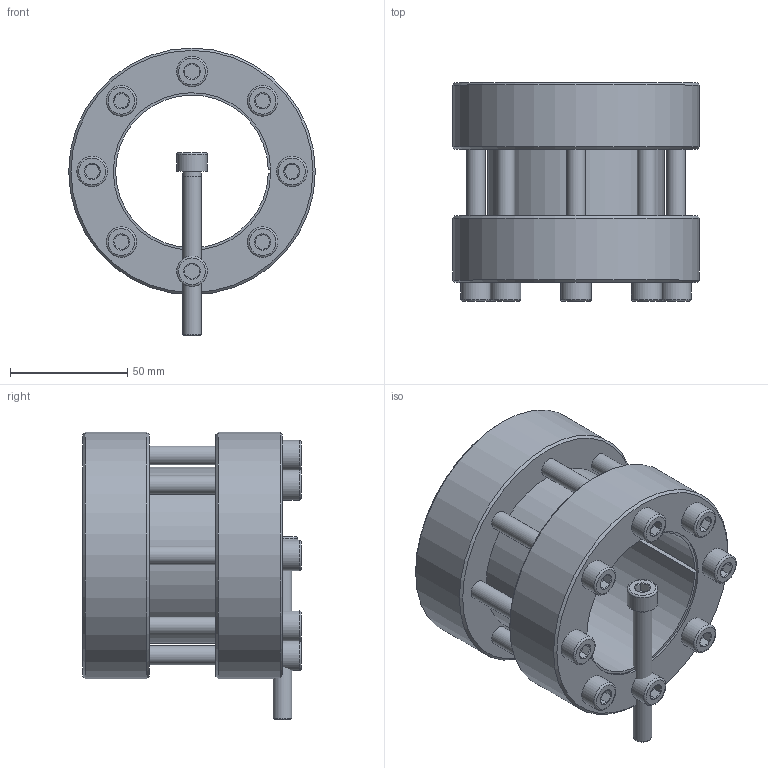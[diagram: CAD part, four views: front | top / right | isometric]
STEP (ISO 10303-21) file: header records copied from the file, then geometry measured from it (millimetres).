
FILE_DESCRIPTION( ( 'Unknown' ), '1' );
FILE_NAME( 'C:/Dokumente und Einstellungen/Sven/Desktop/homepage/cad - homepage/KBS95/KBS 95 - 65 x 105.stp', 'Unknown', ( 'Unknown' ), ( 'Unknown' ), 'XStep 1.0', 'Unknown', ' ' );
FILE_SCHEMA( ( 'automotive_design' ) );
Length unit declared in the file: millimetre
Products named in the file (3): Assem1; KBS 95 - 65 x 105; ISO EN DIN 4762 M8x70
Bounding box: 105 x 93 x 122.5 mm (x, y, z)
Volume: 658595.2 mm3; surface area: 164837.3 mm2
Topology: 11 solids, 11 shells, 297 faces, 615 edges, 376 vertices
Faces by surface type: plane 128, cylinder 76, cone 75, torus 18
Full cylindrical faces by diameter (mm): 7 x9, 8 x50, 13 x9, 105 x4
Entity records: 1986 total; most frequent: CARTESIAN_POINT 327, DIRECTION 308, ORIENTED_EDGE 222, AXIS2_PLACEMENT_3D 136, EDGE_LOOP 130, EDGE_CURVE 111, VERTEX_POINT 87, FACE_OUTER_BOUND 85
